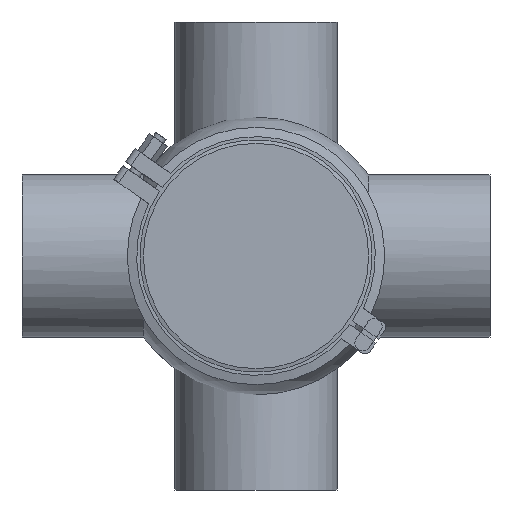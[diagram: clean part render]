
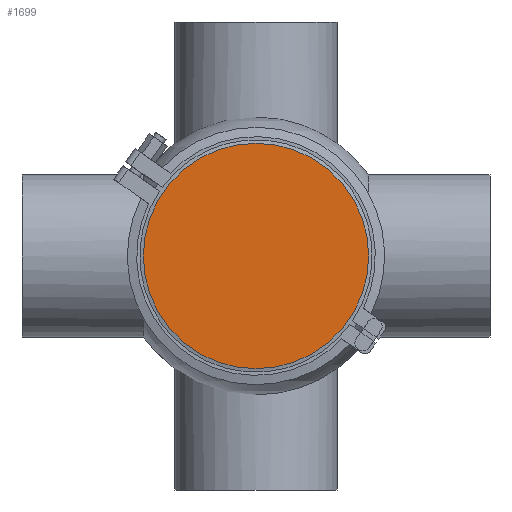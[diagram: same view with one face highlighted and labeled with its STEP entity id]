
A CAD part, front view. The second image highlights one B-rep face of the part: STEP entity #1699.
In plain terms, the highlighted planar face has unit normal (0, -1, 0).
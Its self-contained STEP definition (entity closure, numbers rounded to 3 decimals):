
#600 = CARTESIAN_POINT ( 'NONE',  ( 0., 0., 72.25 ) ) ;
#652 = DIRECTION ( 'NONE',  ( 0., 1., 0. ) ) ;
#1451 = ORIENTED_EDGE ( 'NONE', *, *, #19925, .F. ) ;
#1699 = ADVANCED_FACE ( 'NONE', ( #15637 ), #12432, .T. ) ;
#6077 = EDGE_LOOP ( 'NONE', ( #1451 ) ) ;
#10263 = DIRECTION ( 'NONE',  ( 0., 0., 1. ) ) ;
#12432 = PLANE ( 'NONE',  #15628 ) ;
#14305 = AXIS2_PLACEMENT_3D ( 'NONE', #18446, #652, #10263 ) ;
#15628 = AXIS2_PLACEMENT_3D ( 'NONE', #18997, #20515, #20416 ) ;
#15637 = FACE_OUTER_BOUND ( 'NONE', #6077, .T. ) ;
#16966 = VERTEX_POINT ( 'NONE', #600 ) ;
#18446 = CARTESIAN_POINT ( 'NONE',  ( 0., 0., 0. ) ) ;
#18997 = CARTESIAN_POINT ( 'NONE',  ( -72.25, 0., 0. ) ) ;
#19925 = EDGE_CURVE ( 'NONE', #16966, #16966, #20868, .T. ) ;
#20416 = DIRECTION ( 'NONE',  ( 0., 0., -1. ) ) ;
#20515 = DIRECTION ( 'NONE',  ( 0., -1., 0. ) ) ;
#20868 = CIRCLE ( 'NONE', #14305, 72.25 ) ;
